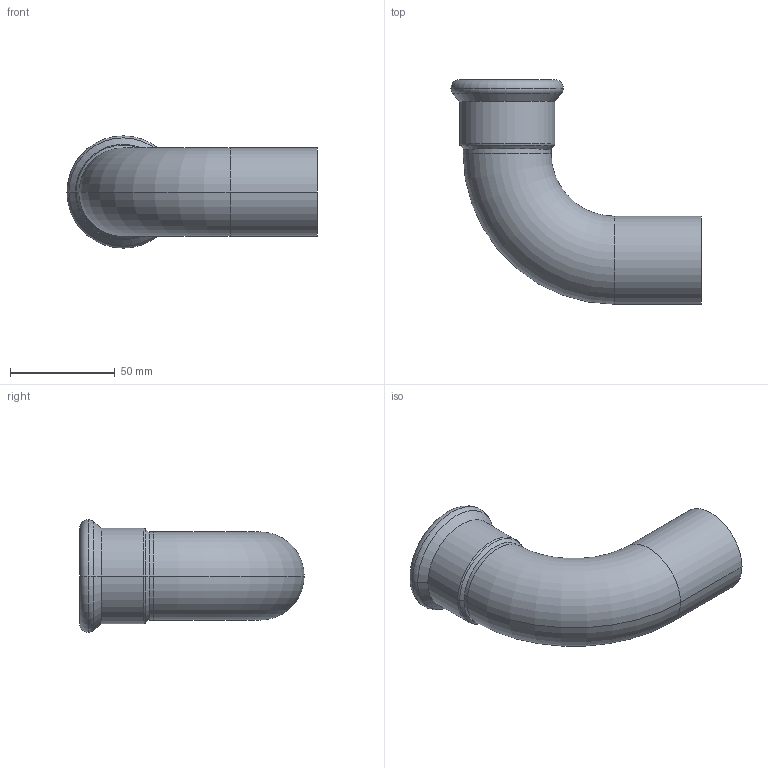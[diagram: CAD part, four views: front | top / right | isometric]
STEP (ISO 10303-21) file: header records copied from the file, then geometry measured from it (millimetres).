
FILE_DESCRIPTION(('CoCreate Modeling STEP Export'),'2;1');
FILE_NAME('C1411 42x42.stp','2014-11-11T16:36:11',(''),(''),'CoCreate Modeling STEP processor for AP214 (Solid Model)','CoCreate Modeling 17.00A 17-Jun-2010 (C) Parametric Technology GmbH','');
FILE_SCHEMA(('AUTOMOTIVE_DESIGN { 1 0 10303 214 1 1 1 1 }'));
Length unit declared in the file: millimetre
Products named in the file (2): C1411_42x42
Assembly tree (1 placements, depth 2):
  C1411_42x42
    C1411_42x42
Bounding box: 119.28 x 107 x 53.55 mm (x, y, z)
Volume: 35178.1 mm3; surface area: 42088.2 mm2
Topology: 1 solids, 1 shells, 32 faces, 67 edges, 39 vertices
Faces by surface type: cylinder 14, torus 10, plane 4, cone 4
Entity records: 743 total; most frequent: ORIENTED_EDGE 134, DIRECTION 116, CARTESIAN_POINT 106, EDGE_CURVE 67, AXIS2_PLACEMENT_3D 49, VERTEX_POINT 39, EDGE_LOOP 36, FACE_OUTER_BOUND 32
